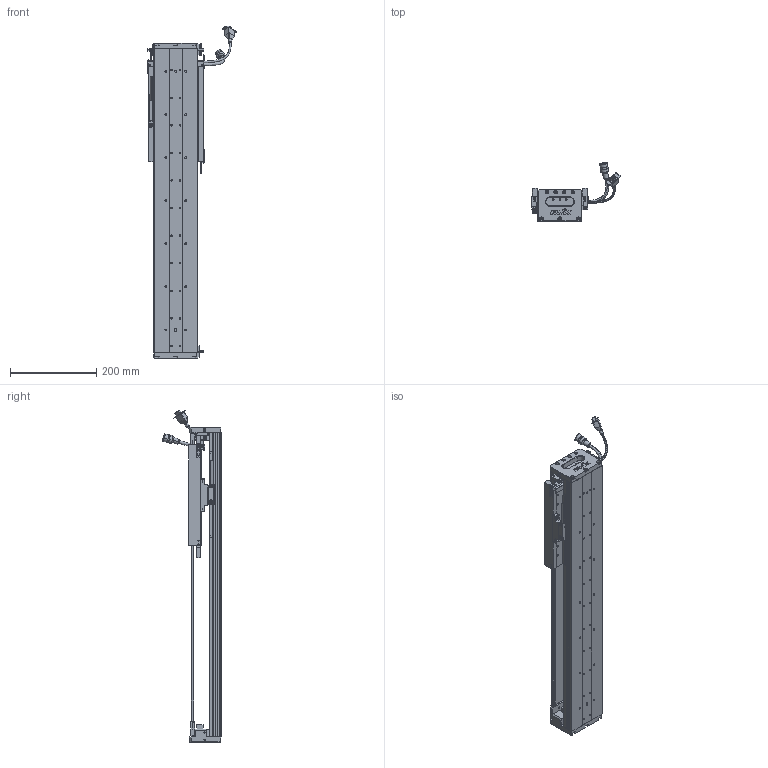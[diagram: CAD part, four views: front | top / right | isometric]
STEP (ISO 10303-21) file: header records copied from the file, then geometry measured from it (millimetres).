
FILE_DESCRIPTION (( 'STEP AP203' ), '1' );
FILE_NAME ('Z3-RY100D-1-L500-B-K.SLDASM_0400.step', '2021-05-17T02:49:36', ( '盈信电脑' ), ( '东莞市道滘镇水果街19号' ), 'SwSTEP 2.0', 'SolidWorks 2016', '' );
FILE_SCHEMA (( 'CONFIG_CONTROL_DESIGN' ));
Length unit declared in the file: millimetre
Products named in the file (36): SCREW-M1.6; SCREW-M1.6-1; SCREW-M1.7; SCALE-Part-1; HOLDER0; SEAL-Part-1; 100-Z-臏賑輸盄裔(21遴); Z-RY100D詩湍狟揤裔; 140雄赽晤鎢ん堤盄; PSLH080_PSLF2; LABEL-Part-1; 覜茼ん672; Z3-RY100-L500詩湍90mm遵_0400; HARNESS-Part-2; SCALE; SCREW-M1.6-2; Z3-RY100D-1-L500-B-K.SLDASM_0400; Z-RY100D詩湍奻揤裔; SCALE-Part-2; Z-100詩湍傷裔啣; SCREW-M1.6-3; Z-RY100D覜茼んえ; HARNESS-Part-1; 140蚥薯蝶輸; 榋妏寠巭燃_暯_M2_2; COVER-Part-1; 080黍杅芛假蚾釱21遴; COVER; PBU_SHEET; LABEL; Z3-RY100铝滑块（21款）; SCREW-M1.7-1; HARNESS; SEAL; Z3-RY100D-500-倰第菁釱_0400; SHIELDPLATE
Assembly tree (43 placements, depth 4):
  Z3-RY100D-1-L500-B-K.SLDASM_0400
    Z3-RY100D-500-倰第菁釱_0400
    Z3-RY100铝滑块（21款）
    PSLH080_PSLF2
      SCALE
        SCALE-Part-1
        SCALE-Part-2
      HARNESS
        HARNESS-Part-1
        HARNESS-Part-2
      LABEL
        LABEL-Part-1
      COVER
        COVER-Part-1
      SEAL
        SEAL-Part-1
      榋妏寠巭燃_暯_M2_2
      SHIELDPLATE
      SCREW-M1.7
      SCREW-M1.7-1
      PBU_SHEET
      SCREW-M1.6
      SCREW-M1.6-1
      SCREW-M1.6-2
      SCREW-M1.6-3
      HOLDER0
    080黍杅芛假蚾釱21遴
    Z-100詩湍傷裔啣  x2
    140蚥薯蝶輸  x2
    覜茼ん672  x3
    Z-RY100D覜茼んえ  x3
    100-Z-臏賑輸盄裔(21遴)
    140雄赽晤鎢ん堤盄
    Z3-RY100-L500詩湍90mm遵_0400
    Z-RY100D詩湍狟揤裔  x2
    Z-RY100D詩湍奻揤裔  x2
Bounding box: 205.84 x 136.11 x 770.43 mm (x, y, z)
Volume: 1854938 mm3; surface area: 692014.4 mm2
Topology: 38 solids, 38 shells, 2493 faces, 6469 edges, 4080 vertices
Faces by surface type: plane 1107, cylinder 1038, cone 226, torus 69, bspline 53
Entity records: 66495 total; most frequent: CARTESIAN_POINT 14037, DIRECTION 10471, ORIENTED_EDGE 9818, EDGE_CURVE 4909, AXIS2_PLACEMENT_3D 3822, VERTEX_POINT 3148, VECTOR 2827, LINE 2827
